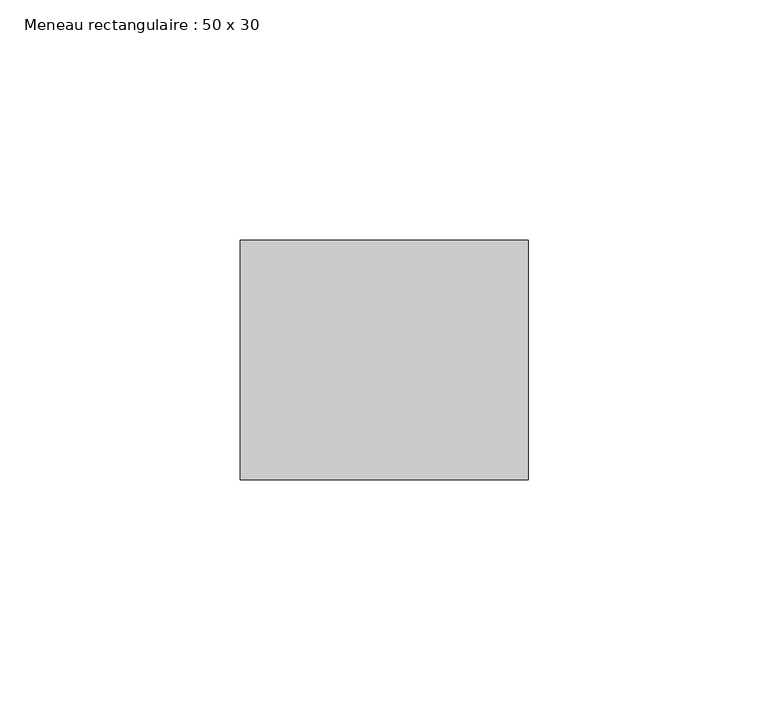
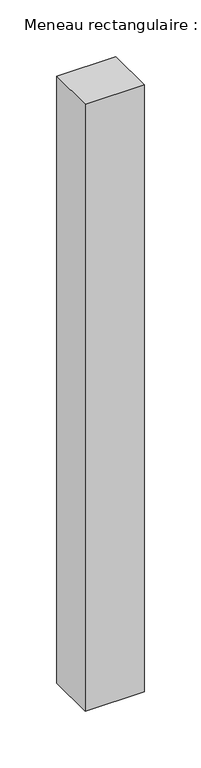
"""IFC4 building model written with IfcOpenShell, lengths in millimetres: member geometry, Meneau rectangulaire : 50 x 30."""

from ifc_helpers import new_model, si_unit, frame, origin, place, context, project, spatial, polyline, outline, extrude, source, transform, mapped, element, save


def meneau_rectangulaire_50_x_30_d0a0920b(model_context):
    return source(origin(), model_context, "Body", "SweptSolid", [
        extrude(outline(polyline([(30.0, 0.0), (30.0, -50.0), (-30.0, -50.0), (-30.0, 0.0), (30.0, 0.0)])), frame((0.0, 0.0, -652.6288997), z_axis=(0.0, 0.0, 1.0), x_axis=(1.0, 0.0, 0.0)), (0.0, 0.0, 1.0), 652.6288997),
    ])


if __name__ == "__main__":
    model = new_model("IFC4")
    model_context = context("Model", 3, world=origin())
    ifc_project = project(units=[si_unit("LENGTHUNIT", "METRE", prefix="MILLI")], contexts=[model_context])
    site = spatial("IfcSite", under=ifc_project)
    building = spatial("IfcBuilding", under=site)
    placement = place(None, origin())
    meneau_rectangulaire_50_x_30_shape = meneau_rectangulaire_50_x_30_d0a0920b(model_context)
    element("IfcMember", 1, ObjectType="Meneau rectangulaire : 50 x 30", at=placement, inside=building, context=model_context, shape_type="MappedRepresentation", body=[
        mapped(meneau_rectangulaire_50_x_30_shape, transform((0.0, 0.0, 0.0), x_axis=(1.0, 0.0, 0.0), y_axis=(0.0, 1.0, 0.0), z_axis=(0.0, 0.0, 1.0))),
    ])
    save(model, "model.ifc")
